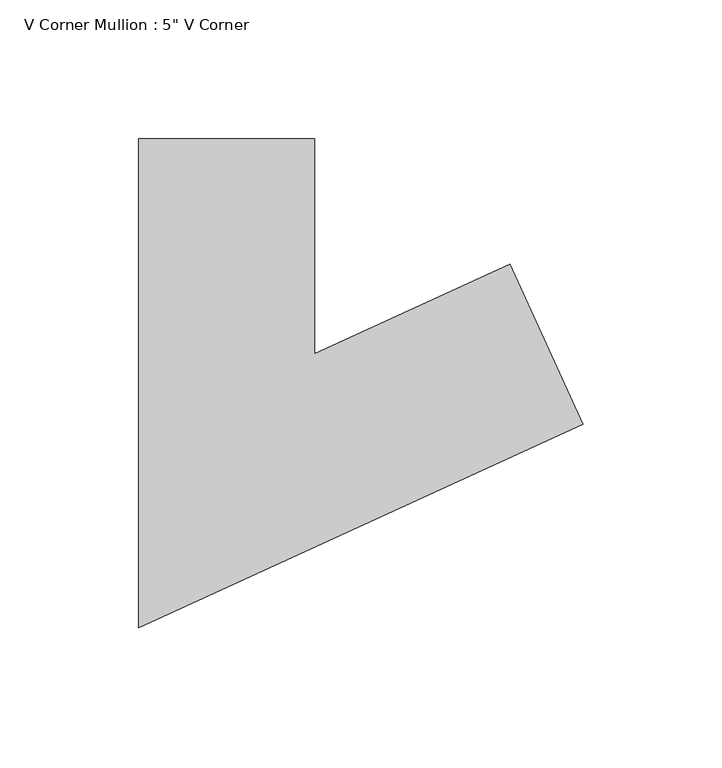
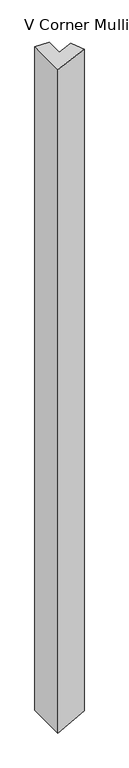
"""IFC4 building model written with IfcOpenShell, lengths in millimetres: member geometry."""

from ifc_helpers import new_model, si_unit, origin, place, context, project, spatial, faceted_brep, source, transform, mapped, element, save


def member_feeeeace(model_context):
    return source(origin(), model_context, "Body", "Brep", [
        faceted_brep([(61.49523, 18.2208415, -1.480464), (87.9205542, -39.5195451, -2.1166392), (87.9205542, -39.5195451, -3111.2485498), (61.49523, 18.2208415, -3111.9029548), (-9.0228811, -14.0523047, 0.2172209), (-9.0228811, -14.0523047, -3113.6492874), (-9.0228811, 63.5, 0.2172209), (-9.0228811, 63.5, -3113.6492874), (-72.5228811, 63.5, 1.7459486), (-72.5228811, 63.5, -3115.2218213), (-72.5228811, -112.9476953, 1.7459486), (-72.5228811, -112.9476953, -3115.2218213)], [[[0, 1, 2, 3]], [[4, 0, 3, 5]], [[6, 4, 5, 7]], [[8, 6, 7, 9]], [[10, 8, 9, 11]], [[1, 10, 11, 2]], [[1, 0, 4, 6, 8, 10]], [[2, 11, 9, 7, 5, 3]]]),
    ])


if __name__ == "__main__":
    model = new_model("IFC4")
    model_context = context("Model", 3, world=origin())
    ifc_project = project(units=[si_unit("LENGTHUNIT", "METRE", prefix="MILLI")], contexts=[model_context])
    site = spatial("IfcSite", under=ifc_project)
    building = spatial("IfcBuilding", under=site)
    placement = place(None, origin())
    member_shape = member_feeeeace(model_context)
    element("IfcMember", 1, ObjectType="V Corner Mullion : 5\" V Corner", at=placement, inside=building, context=model_context, shape_type="MappedRepresentation", body=[
        mapped(member_shape, transform((0.0, 0.0, 0.0), x_axis=(1.0, 0.0, 0.0), y_axis=(0.0, 1.0, 0.0), z_axis=(0.0, 0.0, 1.0))),
    ])
    save(model, "model.ifc")
